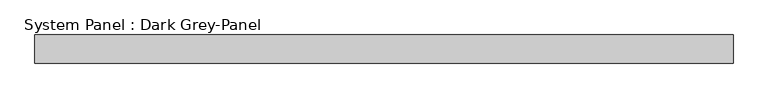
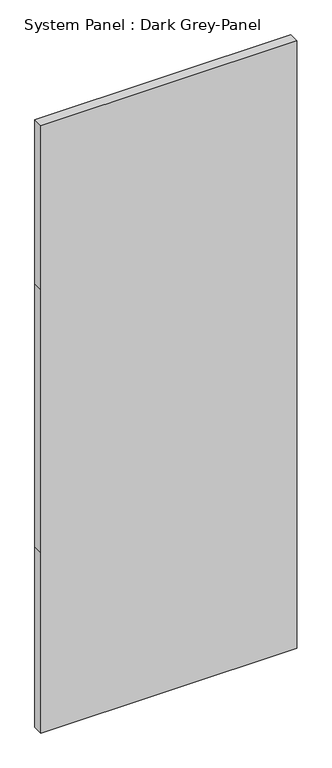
"""IFC4 building model written with IfcOpenShell, lengths in millimetres: plate geometry, System Panel : Dark Grey-Panel."""

from ifc_helpers import new_model, si_unit, frame, origin, place, context, project, spatial, polyline, outline, extrude, source, transform, mapped, element, save


def system_panel_dark_grey_panel_c47644bc(model_context):
    return source(origin(), model_context, "Body", "SweptSolid", [
        extrude(outline(polyline([(0.0, -737.5), (0.0, 737.5), (1100.0, 737.5), (2700.0, 737.5), (3700.0, 737.5), (3700.0, -737.5), (2700.0, -737.5), (1100.0, -737.5), (0.0, -737.5)])), frame((0.0, -10.5, 0.0), z_axis=(0.0, 1.0, 0.0), x_axis=(0.0, 0.0, 1.0)), (0.0, 0.0, 1.0), 60.0),
    ])


if __name__ == "__main__":
    model = new_model("IFC4")
    model_context = context("Model", 3, world=origin())
    ifc_project = project(units=[si_unit("LENGTHUNIT", "METRE", prefix="MILLI")], contexts=[model_context])
    site = spatial("IfcSite", under=ifc_project)
    building = spatial("IfcBuilding", under=site)
    placement = place(None, origin())
    system_panel_dark_grey_panel_shape = system_panel_dark_grey_panel_c47644bc(model_context)
    element("IfcPlate", 1, ObjectType="System Panel : Dark Grey-Panel", at=placement, inside=building, context=model_context, shape_type="MappedRepresentation", body=[
        mapped(system_panel_dark_grey_panel_shape, transform((0.0, 0.0, 0.0), x_axis=(1.0, 0.0, 0.0), y_axis=(0.0, 1.0, 0.0), z_axis=(0.0, 0.0, 1.0))),
    ])
    save(model, "model.ifc")
